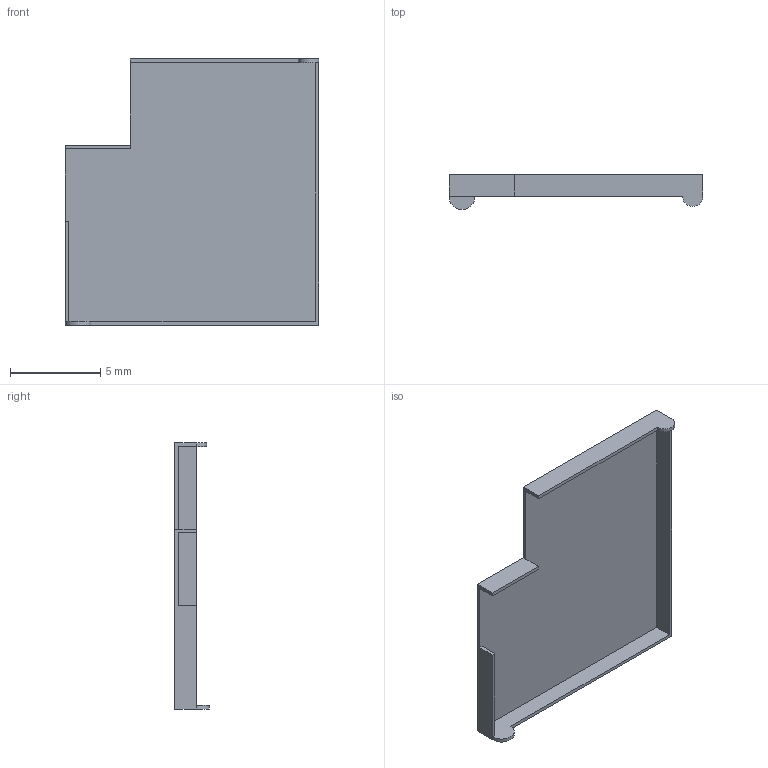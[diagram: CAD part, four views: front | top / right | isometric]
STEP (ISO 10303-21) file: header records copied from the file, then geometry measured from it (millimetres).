
FILE_DESCRIPTION((''),'2;1');
FILE_NAME('ANTENNA_PCB_COVER_ANY_PRT','2008-06-30T',('GRA'),(''),'PRO/ENGINEER BY PARAMETRIC TECHNOLOGY CORPORATION, 2006170','PRO/ENGINEER BY PARAMETRIC TECHNOLOGY CORPORATION, 2006170','');
FILE_SCHEMA(('CONFIG_CONTROL_DESIGN'));
Length unit declared in the file: millimetre
Products named in the file (1): ANTENNA_PCB_COVER_ANY_PRT
Bounding box: 14.05 x 1.91 x 14.73 mm (x, y, z)
Volume: 47.8 mm3; surface area: 490.6 mm2
Topology: 1 solids, 1 shells, 21 faces, 54 edges, 35 vertices
Faces by surface type: plane 19, cylinder 2
Entity records: 666 total; most frequent: CARTESIAN_POINT 110, ORIENTED_EDGE 108, DIRECTION 100, EDGE_CURVE 54, VECTOR 50, LINE 50, VERTEX_POINT 35, AXIS2_PLACEMENT_3D 25
